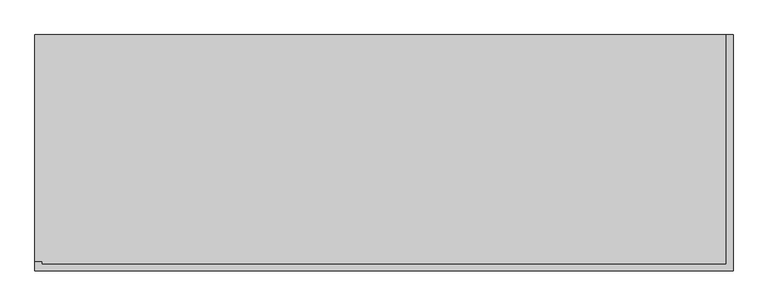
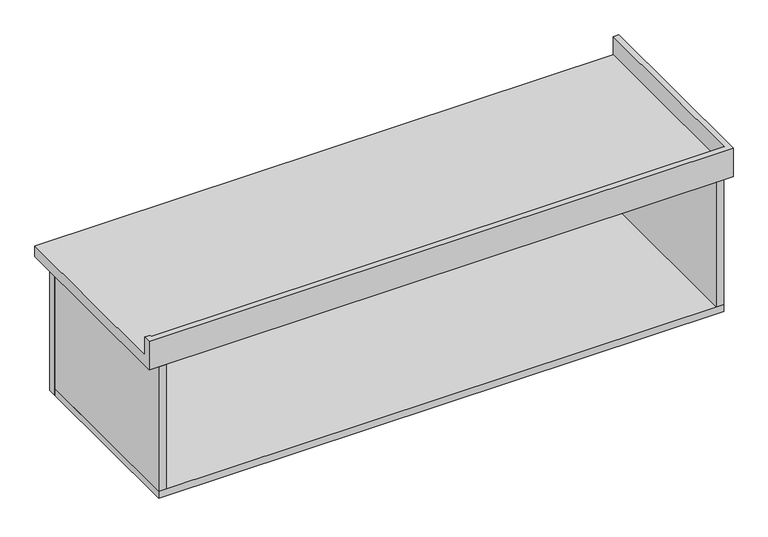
"""IFC4 building model written with IfcOpenShell, lengths in millimetres: furniture geometry, Mueble colgado 2 cajones al lado - lavabo sobreponer : MB2-mueble baño colgado-2 cajones al lado 150."""

from ifc_helpers import new_model, si_unit, frame, origin, place, context, project, spatial, polyline, outline, extrude, faceted_brep, source, transform, mapped, element, save


def furniture_030b6b42(model_context):
    return source(origin(), model_context, "Body", "SolidModel", [
        extrude(outline(polyline([(-625.0, 490.0), (-625.0, 510.0), (120.0, 510.0), (120.0, 490.0), (-625.0, 490.0)])), frame((0.0, 0.0, 350.0), z_axis=(0.0, 0.0, 1.0), x_axis=(1.0, 0.0, 0.0)), (0.0, 0.0, 1.0), 360.0),
        faceted_brep([(-650.0, 30.0, 800.0), (-635.0, 30.0, 800.0), (-635.0, 30.0, 750.0), (-650.0, 30.0, 750.0), (-650.0, 10.0, 800.0), (900.0, 10.0, 800.0), (900.0, 535.0, 800.0), (885.0, 535.0, 800.0), (885.0, 25.0, 800.0), (-635.0, 25.0, 800.0), (-635.0, 25.0, 750.0), (-650.0, 535.0, 750.0), (-650.0, 535.0, 720.0), (-650.0, 10.0, 720.0), (885.0, 25.0, 750.0), (900.0, 10.0, 720.0), (900.0, 535.0, 720.0), (885.0, 535.0, 750.0)], [[[0, 1, 2, 3]], [[1, 0, 4, 5, 6, 7, 8, 9]], [[2, 1, 9, 10]], [[0, 3, 11, 12, 13, 4]], [[9, 8, 14, 10]], [[5, 4, 13, 15]], [[7, 6, 16, 12, 11, 17]], [[8, 7, 17, 14]], [[16, 6, 5, 15]], [[11, 3, 2, 10, 14, 17]], [[16, 15, 13, 12]]]),
        extrude(outline(polyline([(875.0, 510.0), (875.0, 490.0), (130.0, 490.0), (130.0, 510.0), (875.0, 510.0)])), frame((0.0, 0.0, 350.0), z_axis=(0.0, 0.0, 1.0), x_axis=(1.0, 0.0, 0.0)), (0.0, 0.0, 1.0), 360.0),
        extrude(outline(polyline([(875.0, 10.0), (855.0, 10.0), (855.0, 485.0), (875.0, 485.0), (875.0, 10.0)])), frame((0.0, 0.0, 370.0), z_axis=(0.0, 0.0, 1.0), x_axis=(1.0, 0.0, 0.0)), (0.0, 0.0, 1.0), 350.0),
        extrude(outline(polyline([(-605.0, 10.0), (-625.0, 10.0), (-625.0, 485.0), (-605.0, 485.0), (-605.0, 10.0)])), frame((0.0, 0.0, 370.0), z_axis=(0.0, 0.0, 1.0), x_axis=(1.0, 0.0, 0.0)), (0.0, 0.0, 1.0), 350.0),
        extrude(outline(polyline([(875.0, 485.0), (875.0, 10.0), (-625.0, 10.0), (-625.0, 485.0), (875.0, 485.0)])), frame((0.0, 0.0, 350.0), z_axis=(0.0, 0.0, 1.0), x_axis=(1.0, 0.0, 0.0)), (0.0, 0.0, 1.0), 20.0),
    ])


if __name__ == "__main__":
    model = new_model("IFC4")
    model_context = context("Model", 3, world=origin())
    ifc_project = project(units=[si_unit("LENGTHUNIT", "METRE", prefix="MILLI")], contexts=[model_context])
    site = spatial("IfcSite", under=ifc_project)
    building = spatial("IfcBuilding", under=site)
    placement = place(None, origin())
    furniture_shape = furniture_030b6b42(model_context)
    element("IfcFurniture", 1, ObjectType="Mueble colgado 2 cajones al lado - lavabo sobreponer : MB2-mueble baño colgado-2 cajones al lado 150", at=placement, inside=building, context=model_context, shape_type="MappedRepresentation", body=[
        mapped(furniture_shape, transform((0.0, 0.0, 0.0), x_axis=(1.0, 0.0, 0.0), y_axis=(0.0, 1.0, 0.0), z_axis=(0.0, 0.0, 1.0))),
    ])
    save(model, "model.ifc")
